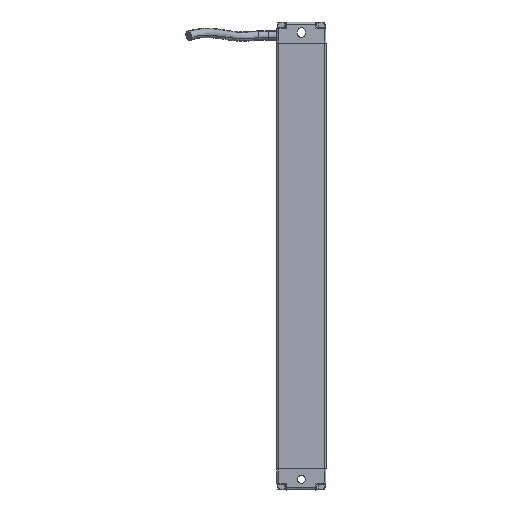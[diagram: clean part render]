
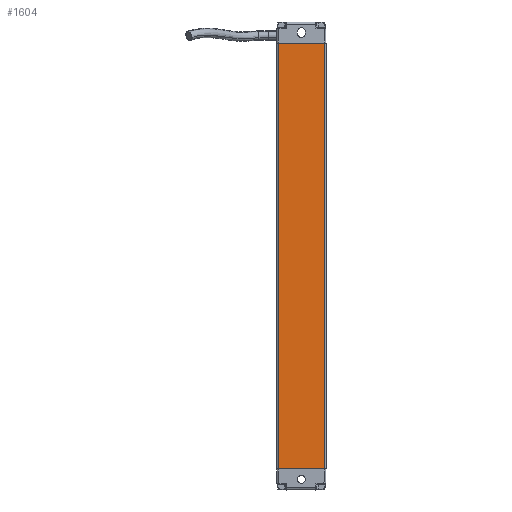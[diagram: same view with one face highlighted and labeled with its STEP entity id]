
A CAD part, front view. The second image highlights one B-rep face of the part: STEP entity #1604.
In plain terms, the highlighted planar face has unit normal (-0.001, -1, 0).
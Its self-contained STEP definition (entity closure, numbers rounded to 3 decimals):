
#1604=ADVANCED_FACE('',(#2720),#2349,.T.);
#2349=PLANE('',#14604);
#2720=FACE_OUTER_BOUND('',#3441,.T.);
#3441=EDGE_LOOP('',(#4477,#4478,#4479,#4480));
#4477=ORIENTED_EDGE('',*,*,#10104,.T.);
#4478=ORIENTED_EDGE('',*,*,#10057,.F.);
#4479=ORIENTED_EDGE('',*,*,#10102,.T.);
#4480=ORIENTED_EDGE('',*,*,#10105,.T.);
#8601=VERTEX_POINT('',#19848);
#8602=VERTEX_POINT('',#19850);
#8639=VERTEX_POINT('',#19939);
#8640=VERTEX_POINT('',#19943);
#10057=EDGE_CURVE('',#8601,#8602,#12174,.T.);
#10102=EDGE_CURVE('',#8601,#8639,#12205,.T.);
#10104=EDGE_CURVE('',#8640,#8602,#12206,.T.);
#10105=EDGE_CURVE('',#8639,#8640,#12207,.T.);
#12174=LINE('',#19849,#13389);
#12205=LINE('',#19938,#13420);
#12206=LINE('',#19942,#13421);
#12207=LINE('',#19944,#13422);
#13389=VECTOR('',#16033,1.);
#13420=VECTOR('',#16106,1.);
#13421=VECTOR('',#16111,1.);
#13422=VECTOR('',#16112,1.);
#14604=AXIS2_PLACEMENT_3D('',#19945,#16113,#16114);
#16033=DIRECTION('',(1.,-0.001,0.));
#16106=DIRECTION('',(0.,0.,-1.));
#16111=DIRECTION('',(0.,0.,1.));
#16112=DIRECTION('',(1.,-0.001,0.));
#16113=DIRECTION('',(-0.001,-1.,0.));
#16114=DIRECTION('',(1.,-0.001,0.));
#19848=CARTESIAN_POINT('',(53.048,-142.376,440.376));
#19849=CARTESIAN_POINT('',(79.028,-142.395,440.376));
#19850=CARTESIAN_POINT('',(79.028,-142.395,440.376));
#19938=CARTESIAN_POINT('',(53.048,-142.376,543.376));
#19939=CARTESIAN_POINT('',(53.048,-142.376,198.376));
#19942=CARTESIAN_POINT('',(79.028,-142.395,198.376));
#19943=CARTESIAN_POINT('',(79.028,-142.395,198.376));
#19944=CARTESIAN_POINT('',(53.048,-142.376,198.376));
#19945=CARTESIAN_POINT('',(79.028,-142.395,543.376));
